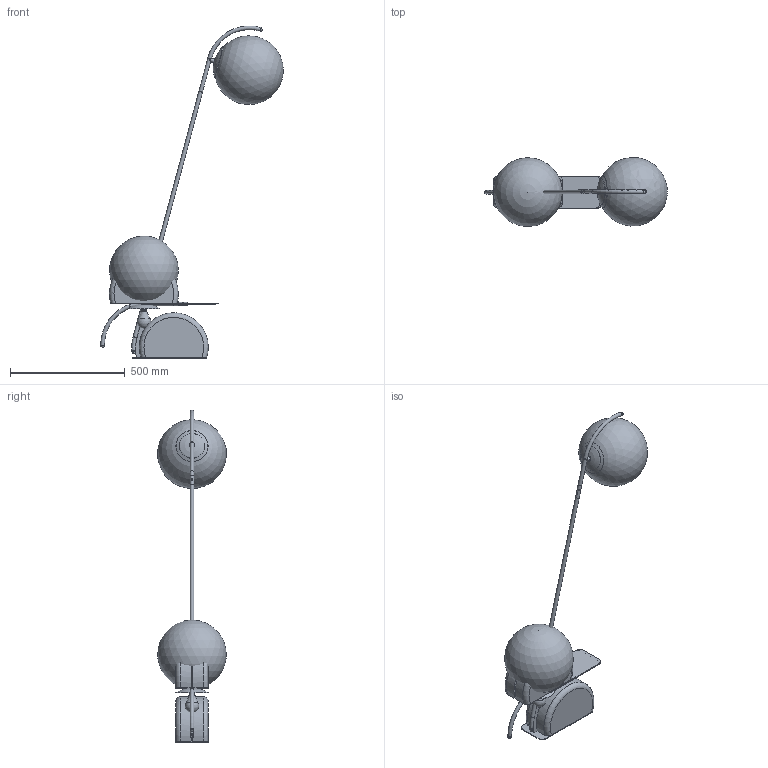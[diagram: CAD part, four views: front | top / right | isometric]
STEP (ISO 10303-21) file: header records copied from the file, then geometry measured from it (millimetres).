
FILE_DESCRIPTION( ( 'Unknown' ), '1' );
FILE_NAME( '//MMS001/Pubblica/PROGETTI MM LAMPADARI/7434 SERIE TUMBLER/ELECTA - LO SCALZO/OLD/PRJ 192_2019 lo scalzo/Terra/Terra.stp', 'Unknown', ( 'Unknown' ), ( 'Unknown' ), 'XStep 1.0', 'Unknown', ' ' );
FILE_SCHEMA( ( 'automotive_design' ) );
Length unit declared in the file: millimetre
Products named in the file (22): Assem1; Assem2; Assem3; Assem4; Assem5; Assem6; Raccordo filettato ; Finale OTTONE grande_base; Tubo; Finale OTTONE grande; Tubo raccordo OTTONE_inferiore; Lama innesto marmo; Base; Lampadina E27; Marmo; Particolare_revisione; Piatino_revisione; Disco fissaggio_sfera300; Sfera ﾘ300; AVS 1780
Bounding box: 795.28 x 299.79 x 1445.39 mm (x, y, z)
Volume: 15995458.7 mm3; surface area: 2486424 mm2
Topology: 46 solids, 49 shells, 621 faces, 1433 edges, 927 vertices
Faces by surface type: plane 284, cylinder 208, bspline 36, torus 34, cone 27, sphere 17, revolution 12, extrusion 3
Full cylindrical faces by diameter (mm): 0.2 x18, 0.5 x6, 0.75 x6, 2.459 x6, 3 x6, 3.242 x4, 4.5 x6, 4.917 x2, 6.647 x2, 7 x2, 8.917 x9, 9 x9, 10 x2, 10.25 x2, 12 x22, 13 x2, 15.285 x3, 16 x13, 18 x4, 22 x7, 24 x3, 26 x3, 110 x2
Entity records: 10069 total; most frequent: CARTESIAN_POINT 5121, DIRECTION 953, ORIENTED_EDGE 790, EDGE_CURVE 395, AXIS2_PLACEMENT_3D 383, EDGE_LOOP 347, VERTEX_POINT 298, FACE_OUTER_BOUND 288
